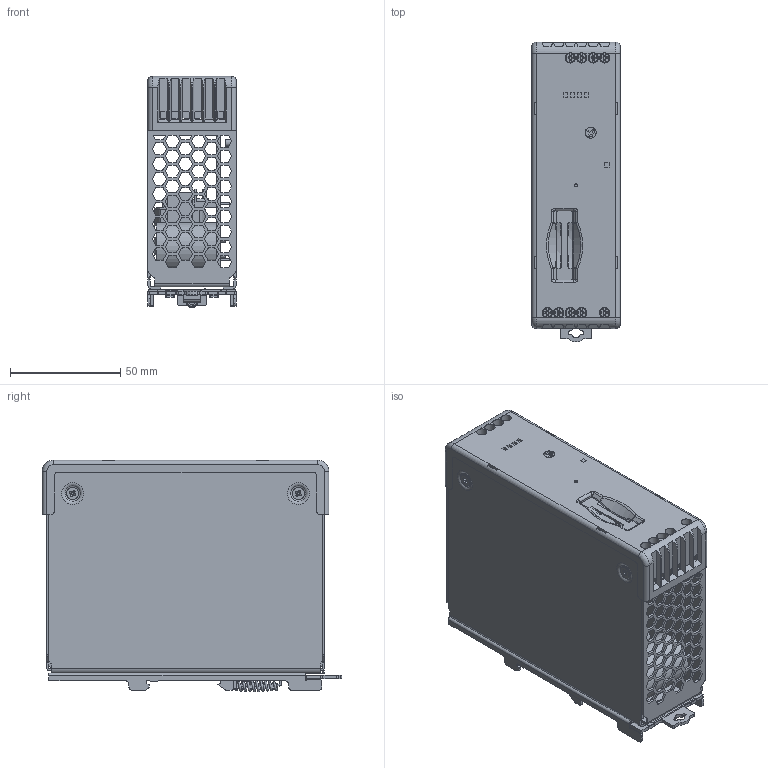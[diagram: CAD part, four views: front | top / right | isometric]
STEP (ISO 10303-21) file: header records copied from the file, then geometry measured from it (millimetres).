
FILE_DESCRIPTION(/* description */ ('Unknown'),/* implementation_level */ '2;1');
FILE_NAME(/* name */ '781B',/* time_stamp */ '2017-02-13T12:41:29+01:00',/* author */ ('Unknown'),/* organization */ ('Unknown'),/* preprocessor_version */ 'ST-DEVELOPER v16.7',/* originating_system */ 'DEX',/* authorisation */ $);
FILE_SCHEMA (('AUTOMOTIVE_DESIGN {1 0 10303 214 3 1 1}'));
Products named in the file (1): Complessivo 78_1B finito completo solo stp
Bounding box: 40 x 135.88 x 104.91 mm (x, y, z)
Surface area: 95827 mm2 (no closed solid volume)
Topology: 0 solids, 166 shells, 3751 faces, 12930 edges, 9279 vertices
Faces by surface type: plane 2504, cylinder 1047, cone 96, torus 62, bspline 35, sphere 7
Full cylindrical faces by diameter (mm): 1.01 x11, 1.2 x7, 1.5 x7, 2 x3, 3 x5, 4.6 x9, 4.7 x9, 5 x3, 5.5 x5, 13.4 x1, 23 x4
Entity records: 141537 total; most frequent: CARTESIAN_POINT 29167, DIRECTION 22778, ORIENTED_EDGE 20453, EDGE_CURVE 12780, LINE 9368, VECTOR 9368, VERTEX_POINT 9225, AXIS2_PLACEMENT_3D 6705
